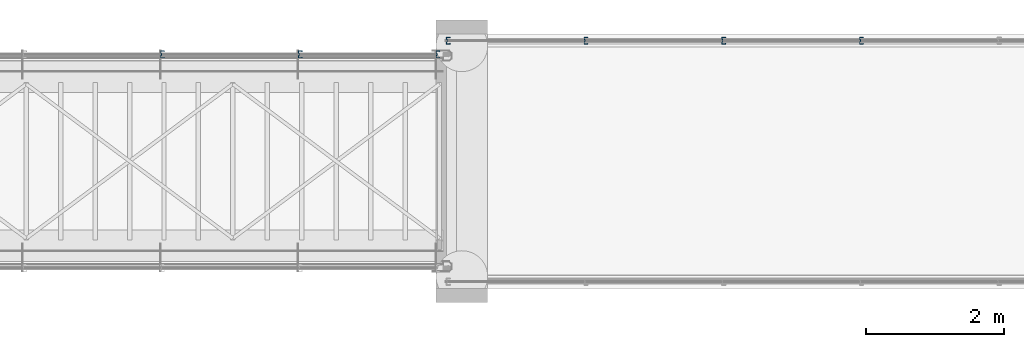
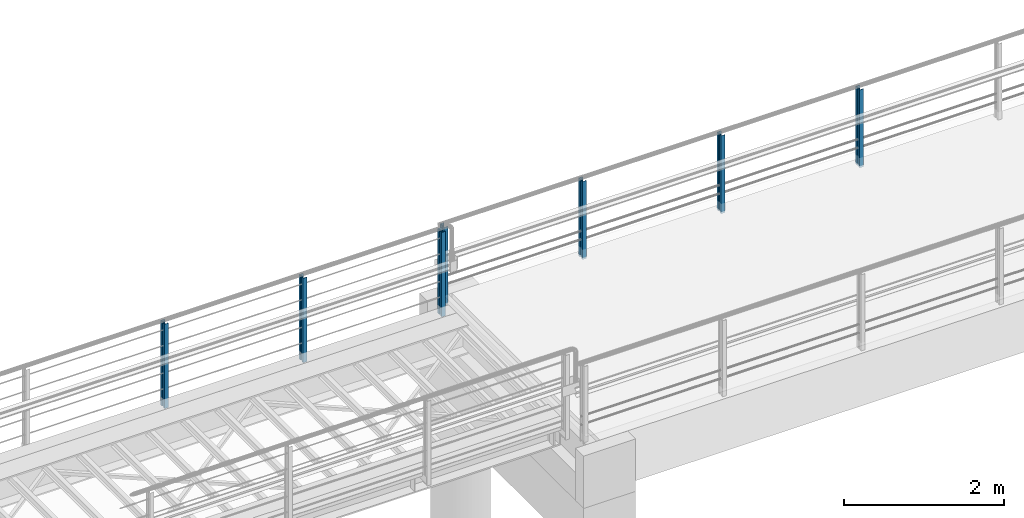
# One storey, part 2 of 31: 7 columns.
"""IFC2X3 building model written with IfcOpenShell, lengths in millimetres."""

from ifc_helpers import new_model, si_unit, frame, origin_with_axes, place, context, subcontext, project, spatial, faceted_brep, material, type_object, element, save


model = new_model("IFC2X3")

# Units and contexts
model_context = context("Model", 3, precision=1e-05, world=origin_with_axes())
body_context = subcontext(model_context, "Body", "Model", "MODEL_VIEW")
ifc_project = project(units=[si_unit("LENGTHUNIT", "METRE", prefix="MILLI"), si_unit("AREAUNIT", "SQUARE_METRE"), si_unit("VOLUMEUNIT", "CUBIC_METRE"), si_unit("MASSUNIT", "GRAM", prefix="KILO"), si_unit("TIMEUNIT", "SECOND"), si_unit("PLANEANGLEUNIT", "RADIAN"), si_unit("SOLIDANGLEUNIT", "STERADIAN"), si_unit("THERMODYNAMICTEMPERATUREUNIT", "DEGREE_CELSIUS"), si_unit("LUMINOUSINTENSITYUNIT", "LUMEN")], contexts=[model_context])

# Site, building, storey
site_placement = place(None, origin_with_axes())
site = spatial("IfcSite", under=ifc_project, at=site_placement, Name="Undefined", CompositionType="ELEMENT")
building_placement = place(site_placement, origin_with_axes())
building = spatial("IfcBuilding", under=site, at=building_placement, Name="Undefined", CompositionType="ELEMENT")
storey_placement = place(building_placement, origin_with_axes())
storey = spatial("IfcBuildingStorey", under=building, at=storey_placement, Name="Undefined", CompositionType="ELEMENT", Elevation=0.0)

# Columns
ifc_material = material(Name="STEEL/S355J2+N")
column_type = type_object("IfcColumnType", Name="CW100-5-10*55-10-30", PredefinedType="NOTDEFINED")
for number, where, z_axis, x_axis, name in (
    (1, (19577.5, 2900.0, -150.0), (0.0, -1.0, 0.0), (0.0, 0.0, 1.0), "BB-STOLPE"),
    (2, (21577.5, 2900.0, -150.0), (0.0, -1.0, 0.0), (0.0, 0.0, 1.0), "BB-STOLPE"),
    (3, (23577.5, 2900.0, -150.0), (0.0, -1.0, 0.0), (0.0, 0.0, 1.0), "BB-STOLPE"),
    (4, (25577.5, 2900.0, -150.0), (0.0, -1.0, 0.0), (0.0, 0.0, 1.0), "BB-STOLPE"),
):
    element("IfcColumn", number, at=place(storey_placement, frame(where, z_axis=z_axis, x_axis=x_axis)), inside=storey, type_object=column_type, material=ifc_material, Name=name, context=body_context, shape_type="Brep", body=[
        faceted_brep([(0.0, -27.5, -50.0), (0.0, 27.5, -50.0), (1190.0, 27.5, -50.0), (1190.0, -27.5, -50.0), (0.0, 27.5, -20.0), (1190.0, 27.5, -20.0), (0.0, 17.5, -10.0), (1190.0, 17.5, -10.0), (0.0, 17.5, 10.0), (1190.0, 17.5, 10.0), (0.0, 27.5, 20.0), (1190.0, 27.5, 20.0), (0.0, 27.5, 50.0), (1190.0, 27.5, 50.0), (0.0, -27.5, 50.0), (1190.0, -27.5, 50.0), (0.0, -27.5, 40.0), (1190.0, -27.5, 40.0), (0.0, -22.5, 40.0), (1190.0, -22.5, 40.0), (0.0, -22.5, 45.0), (1190.0, -22.5, 45.0), (0.0, 22.5, 45.0), (1190.0, 22.5, 45.0), (0.0, 22.5, 21.9149999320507), (1190.0, 22.5, 21.9149999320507), (0.0, 12.5, 11.9149999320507), (1190.0, 12.5, 11.9149999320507), (0.0, 12.5, -11.9149999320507), (1190.0, 12.5, -11.9149999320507), (0.0, 22.5, -21.9149999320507), (1190.0, 22.5, -21.9149999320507), (0.0, 22.5, -45.0), (1190.0, 22.5, -45.0), (0.0, -22.5, -45.0), (1190.0, -22.5, -45.0), (0.0, -22.5, -40.0), (1190.0, -22.5, -40.0), (0.0, -27.5, -40.0), (1190.0, -27.5, -40.0)], [[[0, 1, 2, 3]], [[1, 4, 5, 2]], [[4, 6, 7, 5]], [[6, 8, 9, 7]], [[8, 10, 11, 9]], [[10, 12, 13, 11]], [[12, 14, 15, 13]], [[14, 16, 17, 15]], [[16, 18, 19, 17]], [[18, 20, 21, 19]], [[20, 22, 23, 21]], [[22, 24, 25, 23]], [[24, 26, 27, 25]], [[26, 28, 29, 27]], [[28, 30, 31, 29]], [[30, 32, 33, 31]], [[32, 34, 35, 33]], [[34, 36, 37, 35]], [[36, 38, 39, 37]], [[38, 0, 3, 39]], [[5, 7, 9, 11, 13, 15, 17, 19, 21, 23, 25, 27, 29, 31, 33, 35, 37, 39, 3, 2]], [[38, 36, 34, 32, 30, 28, 26, 24, 22, 20, 18, 16, 14, 12, 10, 8, 6, 4, 1, 0]]]),
    ])
for number, where, z_axis, x_axis in (
    (5, (15427.5, 2700.0, -150.0), (0.0, -1.0, 0.0), (0.0, 0.0, 1.0)),
    (6, (17427.5, 2700.0, -150.0), (0.0, -1.0, 0.0), (0.0, 0.0, 1.0)),
    (7, (19427.5, 2700.0, -150.0), (0.0, -1.0, 0.0), (0.0, 0.0, 1.0)),
):
    element("IfcColumn", number, at=place(storey_placement, frame(where, z_axis=z_axis, x_axis=x_axis)), inside=storey, type_object=column_type, material=ifc_material, Name="STOLPE", context=body_context, shape_type="Brep", body=[
        faceted_brep([(0.0, -27.5, -50.0), (0.0, 27.5, -50.0), (1290.0, 27.5, -50.0), (1290.0, -27.5, -50.0), (0.0, 27.5, -20.0), (1290.0, 27.5, -20.0), (0.0, 17.5, -10.0), (1290.0, 17.5, -10.0), (0.0, 17.5, 10.0), (1290.0, 17.5, 10.0), (0.0, 27.5, 20.0), (1290.0, 27.5, 20.0), (0.0, 27.5, 50.0), (1290.0, 27.5, 50.0), (0.0, -27.5, 50.0), (1290.0, -27.5, 50.0), (0.0, -27.5, 40.0), (1290.0, -27.5, 40.0), (0.0, -22.5, 40.0), (1290.0, -22.5, 40.0), (0.0, -22.5, 45.0), (1290.0, -22.5, 45.0), (0.0, 22.5, 45.0), (1290.0, 22.5, 45.0), (0.0, 22.5, 21.9149999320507), (1290.0, 22.5, 21.9149999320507), (0.0, 12.5, 11.9149999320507), (1290.0, 12.5, 11.9149999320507), (0.0, 12.5, -11.9149999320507), (1290.0, 12.5, -11.9149999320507), (0.0, 22.5, -21.9149999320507), (1290.0, 22.5, -21.9149999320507), (0.0, 22.5, -45.0), (1290.0, 22.5, -45.0), (0.0, -22.5, -45.0), (1290.0, -22.5, -45.0), (0.0, -22.5, -40.0), (1290.0, -22.5, -40.0), (0.0, -27.5, -40.0), (1290.0, -27.5, -40.0)], [[[0, 1, 2, 3]], [[1, 4, 5, 2]], [[4, 6, 7, 5]], [[6, 8, 9, 7]], [[8, 10, 11, 9]], [[10, 12, 13, 11]], [[12, 14, 15, 13]], [[14, 16, 17, 15]], [[16, 18, 19, 17]], [[18, 20, 21, 19]], [[20, 22, 23, 21]], [[22, 24, 25, 23]], [[24, 26, 27, 25]], [[26, 28, 29, 27]], [[28, 30, 31, 29]], [[30, 32, 33, 31]], [[32, 34, 35, 33]], [[34, 36, 37, 35]], [[36, 38, 39, 37]], [[38, 0, 3, 39]], [[5, 7, 9, 11, 13, 15, 17, 19, 21, 23, 25, 27, 29, 31, 33, 35, 37, 39, 3, 2]], [[38, 36, 34, 32, 30, 28, 26, 24, 22, 20, 18, 16, 14, 12, 10, 8, 6, 4, 1, 0]]]),
    ])

save(model, "model.ifc")
